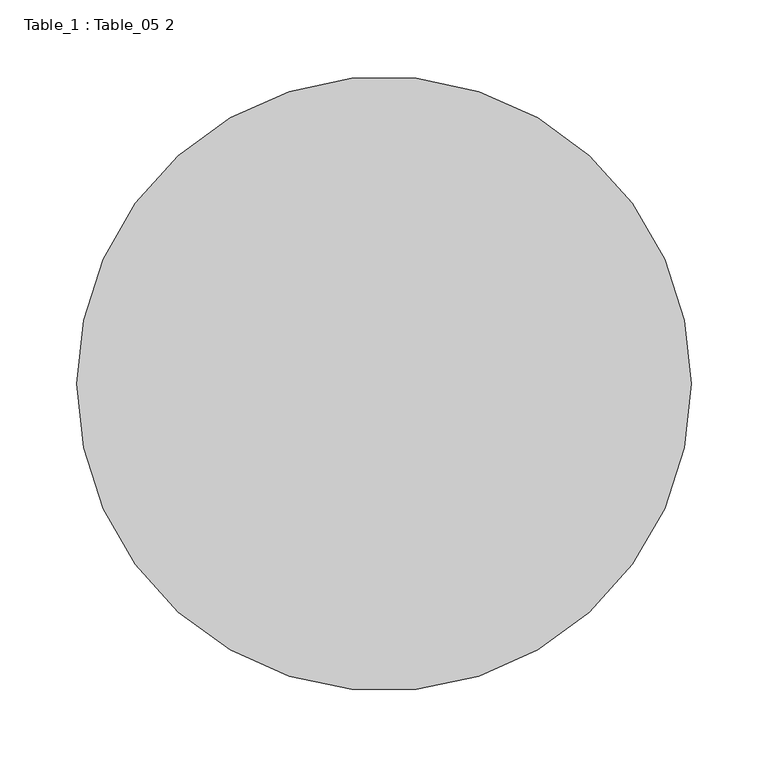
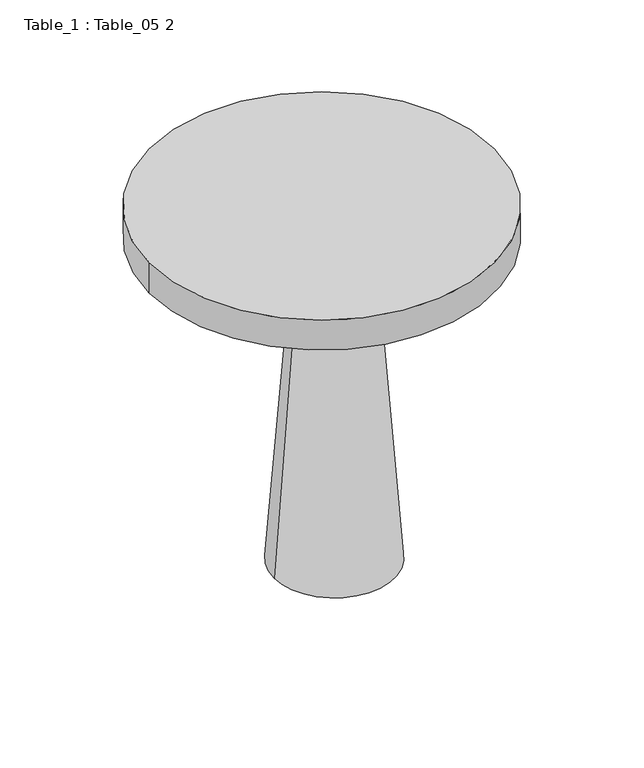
"""IFC4 building model written with IfcOpenShell, lengths in millimetres: furniture geometry, Table_1 : Table_05 2."""

from ifc_helpers import new_model, si_unit, point, frame, origin, origin_2d, place, context, project, spatial, polyline, circle_curve, trimmed, segment, composite_curve, outline, extrude, source, transform, mapped, element, save
from ifc_brep_helpers import plane_surface, revolved_surface, advanced_brep


def table_1_table_05_2_f3671101(model_context):
    return source(origin(), model_context, "Body", "SolidModel", [
        advanced_brep(
        [(-55.3808299, 0.0, 0.0), (84.6191701, 0.0, 0.0), (-25.3808299, 0.0, 400.0), (54.6191701, 0.0, 400.0)],
        [
            (0, 1, circle_curve(frame((14.6191701, 0.0, 0.0), z_axis=(0.0, 0.0, -1.0), x_axis=(-1.0, 0.0, 0.0)), 70.0)),
            (1, 0, circle_curve(frame((14.6191701, 0.0, 0.0), z_axis=(0.0, 0.0, -1.0), x_axis=(1.0, 0.0, 0.0)), 70.0)),
            (2, 3, circle_curve(frame((14.6191701, 0.0, 400.0), z_axis=(0.0, 0.0, 1.0), x_axis=(1.0, 0.0, 0.0)), 40.0)),
            (3, 2, circle_curve(frame((14.6191701, 0.0, 400.0), z_axis=(0.0, 0.0, 1.0), x_axis=(-1.0, 0.0, 0.0)), 40.0)),
            (3, 1),
            (0, 2),
        ],
        [
            plane_surface(frame((14.6191701, 0.0, 0.0), z_axis=(0.0, 0.0, -1.0), x_axis=(0.0, 1.0, 0.0))),
            plane_surface(frame((14.6191701, 0.0, 400.0), z_axis=(0.0, 0.0, 1.0), x_axis=(0.0, 1.0, 0.0))),
            revolved_surface(polyline([(54.61917009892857, 0.0, 400.0), (84.6191701, 0.0, 0.0)]), (14.6191701, 0.0, 933.3333333), (0.0, 0.0, -1.0)),
            revolved_surface(polyline([(-25.380829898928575, 0.0, 400.0), (-55.3808299, 0.0, 0.0)]), (14.6191701, 0.0, 933.3333333), (0.0, 0.0, -1.0)),
        ],
        [
            (0, [[1, 2]]),
            (1, [[3, 4]]),
            (2, [[-4, 5, -1, 6]]),
            (3, [[-3, -6, -2, -5]]),
        ],
    ),
        extrude(outline(composite_curve([segment(trimmed(circle_curve(origin_2d(), 200.0), [point((-200.0, 0.0))], [point((200.0, 0.0))], False, "CARTESIAN"), True, "CONTINUOUS"), segment(trimmed(circle_curve(origin_2d(), 200.0), [point((200.0, 0.0))], [point((-200.0, 0.0))], False, "CARTESIAN"), True, "CONTINUOUS")], self_intersect=False)), frame((0.0, 0.0, 400.0), z_axis=(0.0, 0.0, 1.0), x_axis=(1.0, 0.0, 0.0)), (0.0, 0.0, 1.0), 37.0185879),
    ])


if __name__ == "__main__":
    model = new_model("IFC4")
    model_context = context("Model", 3, world=origin())
    ifc_project = project(units=[si_unit("LENGTHUNIT", "METRE", prefix="MILLI")], contexts=[model_context])
    site = spatial("IfcSite", under=ifc_project)
    building = spatial("IfcBuilding", under=site)
    placement = place(None, origin())
    table_1_table_05_2_shape = table_1_table_05_2_f3671101(model_context)
    element("IfcFurniture", 1, ObjectType="Table_1 : Table_05 2", at=placement, inside=building, context=model_context, shape_type="MappedRepresentation", body=[
        mapped(table_1_table_05_2_shape, transform((0.0, 0.0, 0.0), x_axis=(1.0, 0.0, 0.0), y_axis=(0.0, 1.0, 0.0), z_axis=(0.0, 0.0, 1.0))),
    ])
    save(model, "model.ifc")
